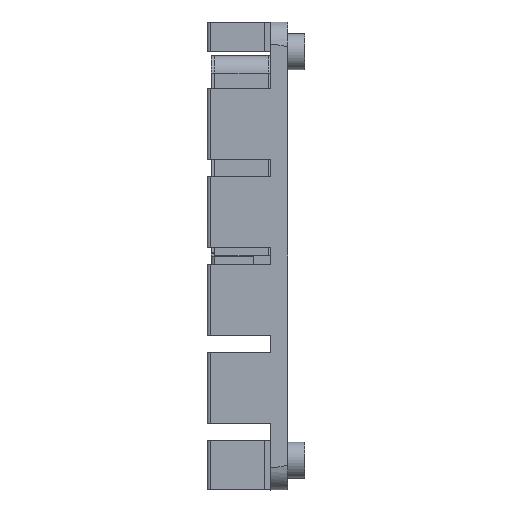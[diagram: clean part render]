
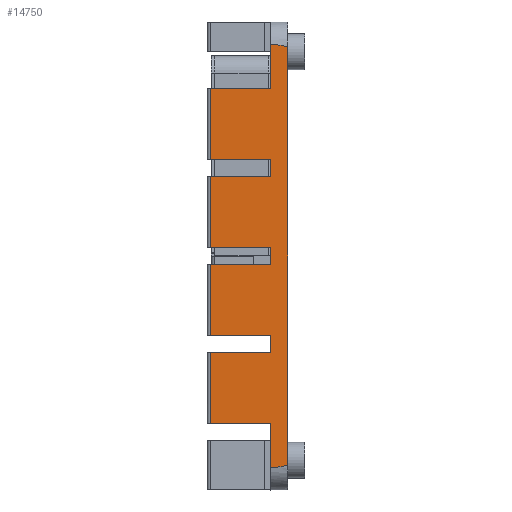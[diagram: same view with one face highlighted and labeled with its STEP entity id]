
A CAD part, left-side view. The second image highlights one B-rep face of the part: STEP entity #14750.
In plain terms, the highlighted planar face has unit normal (-1, 0.014, 0).
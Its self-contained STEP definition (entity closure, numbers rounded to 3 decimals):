
#1197=DIRECTION('',(0.,0.,-1.));
#1198=VECTOR('',#1197,2.);
#1199=CARTESIAN_POINT('',(-19.972,2.,11.356));
#1200=LINE('',#1199,#1198);
#1204=DIRECTION('',(0.,0.,-1.));
#1205=VECTOR('',#1204,2.);
#1206=CARTESIAN_POINT('',(-19.972,2.,1.));
#1207=LINE('',#1206,#1205);
#1211=DIRECTION('',(0.,0.,-1.));
#1212=VECTOR('',#1211,2.);
#1213=CARTESIAN_POINT('',(-19.972,2.,-9.356));
#1214=LINE('',#1213,#1212);
#1430=DIRECTION('',(0.014,1.,0.));
#1431=VECTOR('',#1430,7.109);
#1432=CARTESIAN_POINT('',(-19.972,2.,-11.356));
#1433=LINE('',#1432,#1431);
#1456=DIRECTION('',(0.,0.,-1.));
#1457=VECTOR('',#1456,8.356);
#1458=CARTESIAN_POINT('',(-19.875,9.108,
-11.356));
#1459=LINE('',#1458,#1457);
#1470=DIRECTION('',(0.,0.,1.));
#1471=VECTOR('',#1470,5.197);
#1472=CARTESIAN_POINT('',(-19.972,2.,19.712));
#1473=LINE('',#1472,#1471);
#1477=CARTESIAN_POINT('',(-20.,0.,-24.5));
#1478=CARTESIAN_POINT('',(-20.,0.011,
-24.526));
#1479=CARTESIAN_POINT('',(-19.999,0.041,
-24.57));
#1480=CARTESIAN_POINT('',(-19.998,0.133,
-24.606));
#1481=CARTESIAN_POINT('',(-19.997,0.214,
-24.635));
#1482=CARTESIAN_POINT('',(-19.995,0.323,
-24.665));
#1483=CARTESIAN_POINT('',(-19.994,0.44,
-24.692));
#1484=CARTESIAN_POINT('',(-19.992,0.537,
-24.712));
#1485=CARTESIAN_POINT('',(-19.991,0.661,
-24.736));
#1486=CARTESIAN_POINT('',(-19.989,0.797,
-24.759));
#1487=CARTESIAN_POINT('',(-19.986,0.994,
-24.789));
#1488=CARTESIAN_POINT('',(-19.984,1.126,
-24.807));
#1489=CARTESIAN_POINT('',(-19.982,1.284,
-24.828));
#1490=CARTESIAN_POINT('',(-19.979,1.479,
-24.852));
#1491=CARTESIAN_POINT('',(-19.976,1.709,
-24.878));
#1492=CARTESIAN_POINT('',(-19.973,1.898,
-24.898));
#1493=CARTESIAN_POINT('',(-19.972,2.,-24.908));
#1498=DIRECTION('',(0.,0.,1.));
#1499=VECTOR('',#1498,5.197);
#1500=CARTESIAN_POINT('',(-19.972,2.,-24.908));
#1501=LINE('',#1500,#1499);
#1546=DIRECTION('',(-0.014,-1.,0.));
#1547=VECTOR('',#1546,7.109);
#1548=CARTESIAN_POINT('',(-19.875,9.108,11.356));
#1549=LINE('',#1548,#1547);
#1567=DIRECTION('',(0.014,1.,0.));
#1568=VECTOR('',#1567,7.109);
#1569=CARTESIAN_POINT('',(-19.972,2.,19.712));
#1570=LINE('',#1569,#1568);
#1622=DIRECTION('',(0.,0.,-1.));
#1623=VECTOR('',#1622,8.356);
#1624=CARTESIAN_POINT('',(-19.875,9.108,19.712));
#1625=LINE('',#1624,#1623);
#1629=CARTESIAN_POINT('',(-20.,0.,24.5));
#1630=CARTESIAN_POINT('',(-20.,0.011,
24.526));
#1631=CARTESIAN_POINT('',(-19.999,0.041,
24.57));
#1632=CARTESIAN_POINT('',(-19.998,0.133,
24.606));
#1633=CARTESIAN_POINT('',(-19.997,0.214,
24.635));
#1634=CARTESIAN_POINT('',(-19.995,0.323,
24.665));
#1635=CARTESIAN_POINT('',(-19.994,0.44,
24.692));
#1636=CARTESIAN_POINT('',(-19.992,0.537,
24.712));
#1637=CARTESIAN_POINT('',(-19.991,0.661,
24.735));
#1638=CARTESIAN_POINT('',(-19.989,0.797,
24.759));
#1639=CARTESIAN_POINT('',(-19.986,0.994,
24.789));
#1640=CARTESIAN_POINT('',(-19.984,1.126,24.807));
#1641=CARTESIAN_POINT('',(-19.982,1.284,24.828));
#1642=CARTESIAN_POINT('',(-19.979,1.479,24.852));
#1643=CARTESIAN_POINT('',(-19.976,1.709,24.878));
#1644=CARTESIAN_POINT('',(-19.973,1.898,24.898));
#1645=CARTESIAN_POINT('',(-19.972,2.,24.908));
#2280=DIRECTION('',(0.,0.,1.));
#2281=VECTOR('',#2280,49.);
#2282=CARTESIAN_POINT('',(-20.,0.,-24.5));
#2283=LINE('',#2282,#2281);
#6151=DIRECTION('',(-0.014,-1.,0.));
#6152=VECTOR('',#6151,7.109);
#6153=CARTESIAN_POINT('',(-19.875,9.108,
-19.712));
#6154=LINE('',#6153,#6152);
#6240=DIRECTION('',(-0.014,-1.,0.));
#6241=VECTOR('',#6240,7.109);
#6242=CARTESIAN_POINT('',(-19.875,9.108,
-9.356));
#6243=LINE('',#6242,#6241);
#6283=DIRECTION('',(0.014,1.,0.));
#6284=VECTOR('',#6283,7.109);
#6285=CARTESIAN_POINT('',(-19.972,2.,-1.));
#6286=LINE('',#6285,#6284);
#6309=DIRECTION('',(0.,0.,-1.));
#6310=VECTOR('',#6309,8.356);
#6311=CARTESIAN_POINT('',(-19.875,9.108,-1.));
#6312=LINE('',#6311,#6310);
#6364=DIRECTION('',(-0.014,-1.,0.));
#6365=VECTOR('',#6364,7.109);
#6366=CARTESIAN_POINT('',(-19.875,9.108,1.));
#6367=LINE('',#6366,#6365);
#6407=DIRECTION('',(0.014,1.,0.));
#6408=VECTOR('',#6407,7.109);
#6409=CARTESIAN_POINT('',(-19.972,2.,9.356));
#6410=LINE('',#6409,#6408);
#6440=DIRECTION('',(0.,0.,-1.));
#6441=VECTOR('',#6440,8.356);
#6442=CARTESIAN_POINT('',(-19.875,9.108,9.356));
#6443=LINE('',#6442,#6441);
#12054=CARTESIAN_POINT('',(-19.972,2.,-19.712));
#12055=VERTEX_POINT('',#12054);
#12056=CARTESIAN_POINT('',(-19.972,2.,-24.908));
#12057=VERTEX_POINT('',#12056);
#12262=CARTESIAN_POINT('',(-19.972,2.,24.908));
#12263=VERTEX_POINT('',#12262);
#12264=CARTESIAN_POINT('',(-19.972,2.,19.712));
#12265=VERTEX_POINT('',#12264);
#12270=CARTESIAN_POINT('',(-19.972,2.,11.356));
#12271=VERTEX_POINT('',#12270);
#12272=CARTESIAN_POINT('',(-19.972,2.,9.356));
#12273=VERTEX_POINT('',#12272);
#12278=CARTESIAN_POINT('',(-19.972,2.,1.));
#12279=VERTEX_POINT('',#12278);
#12280=CARTESIAN_POINT('',(-19.972,2.,-1.));
#12281=VERTEX_POINT('',#12280);
#12286=CARTESIAN_POINT('',(-19.972,2.,-9.356));
#12287=VERTEX_POINT('',#12286);
#12288=CARTESIAN_POINT('',(-19.972,2.,-11.356));
#12289=VERTEX_POINT('',#12288);
#12592=CARTESIAN_POINT('',(-19.875,9.108,
-11.356));
#12593=VERTEX_POINT('',#12592);
#12597=CARTESIAN_POINT('',(-19.875,9.108,
-19.712));
#12598=VERTEX_POINT('',#12597);
#12601=CARTESIAN_POINT('',(-19.875,9.108,
11.356));
#12602=VERTEX_POINT('',#12601);
#12603=CARTESIAN_POINT('',(-19.875,9.108,
19.712));
#12604=VERTEX_POINT('',#12603);
#12605=VERTEX_POINT('',#1629);
#12606=CARTESIAN_POINT('',(-20.,0.,-24.5));
#12607=VERTEX_POINT('',#12606);
#12608=CARTESIAN_POINT('',(-19.875,9.108,
-9.356));
#12609=VERTEX_POINT('',#12608);
#12610=CARTESIAN_POINT('',(-19.875,9.108,-1.));
#12611=VERTEX_POINT('',#12610);
#12612=CARTESIAN_POINT('',(-19.875,9.108,1.));
#12613=VERTEX_POINT('',#12612);
#12614=CARTESIAN_POINT('',(-19.875,9.108,
9.356));
#12615=VERTEX_POINT('',#12614);
#14710=CARTESIAN_POINT('',(-20.,0.,-34.507));
#14711=DIRECTION('',(-1.,0.014,0.));
#14712=DIRECTION('',(0.,0.,1.));
#14713=AXIS2_PLACEMENT_3D('',#14710,#14711,#14712);
#14714=PLANE('',#14713);
#14715=ORIENTED_EDGE('',*,*,#14244,.F.);
#14717=ORIENTED_EDGE('',*,*,#14716,.F.);
#14719=ORIENTED_EDGE('',*,*,#14718,.F.);
#14721=ORIENTED_EDGE('',*,*,#14720,.F.);
#14722=ORIENTED_EDGE('',*,*,#14236,.T.);
#14724=ORIENTED_EDGE('',*,*,#14723,.F.);
#14726=ORIENTED_EDGE('',*,*,#14725,.F.);
#14728=ORIENTED_EDGE('',*,*,#14727,.T.);
#14729=ORIENTED_EDGE('',*,*,#14028,.T.);
#14731=ORIENTED_EDGE('',*,*,#14730,.F.);
#14732=ORIENTED_EDGE('',*,*,#14700,.F.);
#14733=ORIENTED_EDGE('',*,*,#14670,.F.);
#14734=ORIENTED_EDGE('',*,*,#14260,.F.);
#14736=ORIENTED_EDGE('',*,*,#14735,.F.);
#14738=ORIENTED_EDGE('',*,*,#14737,.F.);
#14740=ORIENTED_EDGE('',*,*,#14739,.F.);
#14741=ORIENTED_EDGE('',*,*,#14252,.F.);
#14743=ORIENTED_EDGE('',*,*,#14742,.F.);
#14745=ORIENTED_EDGE('',*,*,#14744,.F.);
#14747=ORIENTED_EDGE('',*,*,#14746,.F.);
#14748=EDGE_LOOP('',(#14715,#14717,#14719,#14721,#14722,#14724,#14726,#14728,
#14729,#14731,#14732,#14733,#14734,#14736,#14738,#14740,#14741,#14743,#14745,
#14747));
#14749=FACE_OUTER_BOUND('',#14748,.F.);
#14750=ADVANCED_FACE('',(#14749),#14714,.T.);
#1494=B_SPLINE_CURVE_WITH_KNOTS('',3,(#1477,#1478,#1479,#1480,#1481,#1482,#1483,
#1484,#1485,#1486,#1487,#1488,#1489,#1490,#1491,#1492,#1493),.UNSPECIFIED.,.F.,
.F.,(4,1,1,1,1,1,1,1,1,1,1,1,1,1,4),(0.,0.071,0.143,
0.214,0.286,0.357,0.429,0.5,
0.571,0.643,0.714,0.786,
0.857,0.929,1.),.UNSPECIFIED.);
#1646=B_SPLINE_CURVE_WITH_KNOTS('',3,(#1629,#1630,#1631,#1632,#1633,#1634,#1635,
#1636,#1637,#1638,#1639,#1640,#1641,#1642,#1643,#1644,#1645),.UNSPECIFIED.,.F.,
.F.,(4,1,1,1,1,1,1,1,1,1,1,1,1,1,4),(0.,0.071,0.143,
0.214,0.286,0.357,0.429,0.5,
0.571,0.643,0.714,0.786,
0.857,0.929,1.),.UNSPECIFIED.);
#14028=EDGE_CURVE('',#12057,#12055,#1501,.T.);
#14236=EDGE_CURVE('',#12265,#12263,#1473,.T.);
#14244=EDGE_CURVE('',#12271,#12273,#1200,.T.);
#14252=EDGE_CURVE('',#12279,#12281,#1207,.T.);
#14260=EDGE_CURVE('',#12287,#12289,#1214,.T.);
#14670=EDGE_CURVE('',#12289,#12593,#1433,.T.);
#14700=EDGE_CURVE('',#12593,#12598,#1459,.T.);
#14716=EDGE_CURVE('',#12602,#12271,#1549,.T.);
#14718=EDGE_CURVE('',#12604,#12602,#1625,.T.);
#14720=EDGE_CURVE('',#12265,#12604,#1570,.T.);
#14723=EDGE_CURVE('',#12605,#12263,#1646,.T.);
#14725=EDGE_CURVE('',#12607,#12605,#2283,.T.);
#14727=EDGE_CURVE('',#12607,#12057,#1494,.T.);
#14730=EDGE_CURVE('',#12598,#12055,#6154,.T.);
#14735=EDGE_CURVE('',#12609,#12287,#6243,.T.);
#14737=EDGE_CURVE('',#12611,#12609,#6312,.T.);
#14739=EDGE_CURVE('',#12281,#12611,#6286,.T.);
#14742=EDGE_CURVE('',#12613,#12279,#6367,.T.);
#14744=EDGE_CURVE('',#12615,#12613,#6443,.T.);
#14746=EDGE_CURVE('',#12273,#12615,#6410,.T.);
